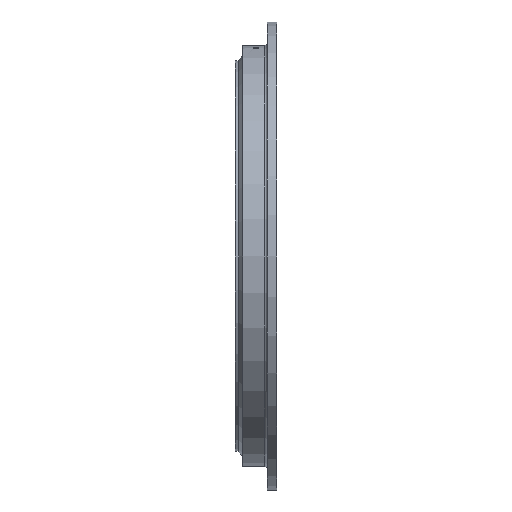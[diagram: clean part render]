
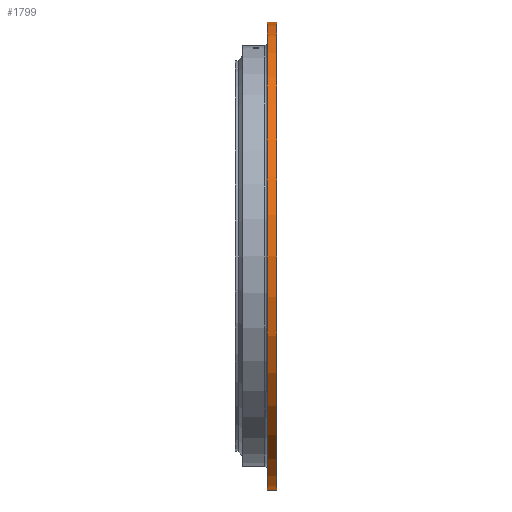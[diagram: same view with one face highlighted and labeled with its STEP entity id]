
A CAD part, left-side view. The second image highlights one B-rep face of the part: STEP entity #1799.
In plain terms, the highlighted cylindrical face has radius 325 mm (diameter 650 mm), a partial arc.
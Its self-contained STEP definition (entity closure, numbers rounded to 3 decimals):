
#521 = EDGE_CURVE ( 'NONE', #6810, #3816, #5560, .T. ) ;
#1799 = ADVANCED_FACE ( 'NONE', ( #6595 ), #6968, .T. ) ;
#1862 = DIRECTION ( 'NONE',  ( 0., -1., 0. ) ) ;
#3736 = DIRECTION ( 'NONE',  ( 0., -1., 0. ) ) ;
#3816 = VERTEX_POINT ( 'NONE', #8401 ) ;
#4282 = CARTESIAN_POINT ( 'NONE',  ( 0., -0.866, -325. ) ) ;
#4615 = CARTESIAN_POINT ( 'NONE',  ( 0., 0., 325. ) ) ;
#5465 = CARTESIAN_POINT ( 'NONE',  ( 0., 12.134, 0. ) ) ;
#5560 = CIRCLE ( 'NONE', #11188, 325. ) ;
#5962 = ORIENTED_EDGE ( 'NONE', *, *, #11317, .F. ) ;
#6175 = EDGE_LOOP ( 'NONE', ( #14020, #8203, #16000, #5962 ) ) ;
#6320 = LINE ( 'NONE', #4615, #21345 ) ;
#6595 = FACE_OUTER_BOUND ( 'NONE', #6175, .T. ) ;
#6810 = VERTEX_POINT ( 'NONE', #12718 ) ;
#6968 = CYLINDRICAL_SURFACE ( 'NONE', #14072, 325. ) ;
#8203 = ORIENTED_EDGE ( 'NONE', *, *, #521, .T. ) ;
#8401 = CARTESIAN_POINT ( 'NONE',  ( 0., 12.134, -325. ) ) ;
#9126 = CARTESIAN_POINT ( 'NONE',  ( 0., -0.866, 0. ) ) ;
#10389 = EDGE_CURVE ( 'NONE', #3816, #22212, #15053, .T. ) ;
#11188 = AXIS2_PLACEMENT_3D ( 'NONE', #5465, #13172, #16953 ) ;
#11317 = EDGE_CURVE ( 'NONE', #16003, #22212, #18915, .T. ) ;
#12355 = CARTESIAN_POINT ( 'NONE',  ( 0., 0., 0. ) ) ;
#12718 = CARTESIAN_POINT ( 'NONE',  ( 0., 12.134, 325. ) ) ;
#13172 = DIRECTION ( 'NONE',  ( 0., -1., 0. ) ) ;
#13790 = DIRECTION ( 'NONE',  ( 0., -1., 0. ) ) ;
#14020 = ORIENTED_EDGE ( 'NONE', *, *, #19229, .F. ) ;
#14072 = AXIS2_PLACEMENT_3D ( 'NONE', #12355, #18210, #17832 ) ;
#14592 = VECTOR ( 'NONE', #1862, 1000. ) ;
#14812 = CARTESIAN_POINT ( 'NONE',  ( 0., 0., -325. ) ) ;
#15017 = AXIS2_PLACEMENT_3D ( 'NONE', #9126, #3736, #16566 ) ;
#15053 = LINE ( 'NONE', #14812, #14592 ) ;
#16000 = ORIENTED_EDGE ( 'NONE', *, *, #10389, .T. ) ;
#16003 = VERTEX_POINT ( 'NONE', #16390 ) ;
#16390 = CARTESIAN_POINT ( 'NONE',  ( 0., -0.866, 325. ) ) ;
#16566 = DIRECTION ( 'NONE',  ( 0., 0., -1. ) ) ;
#16953 = DIRECTION ( 'NONE',  ( 0., 0., -1. ) ) ;
#17832 = DIRECTION ( 'NONE',  ( 0., 0., -1. ) ) ;
#18210 = DIRECTION ( 'NONE',  ( 0., -1., 0. ) ) ;
#18915 = CIRCLE ( 'NONE', #15017, 325. ) ;
#19229 = EDGE_CURVE ( 'NONE', #6810, #16003, #6320, .T. ) ;
#21345 = VECTOR ( 'NONE', #13790, 1000. ) ;
#22212 = VERTEX_POINT ( 'NONE', #4282 ) ;
